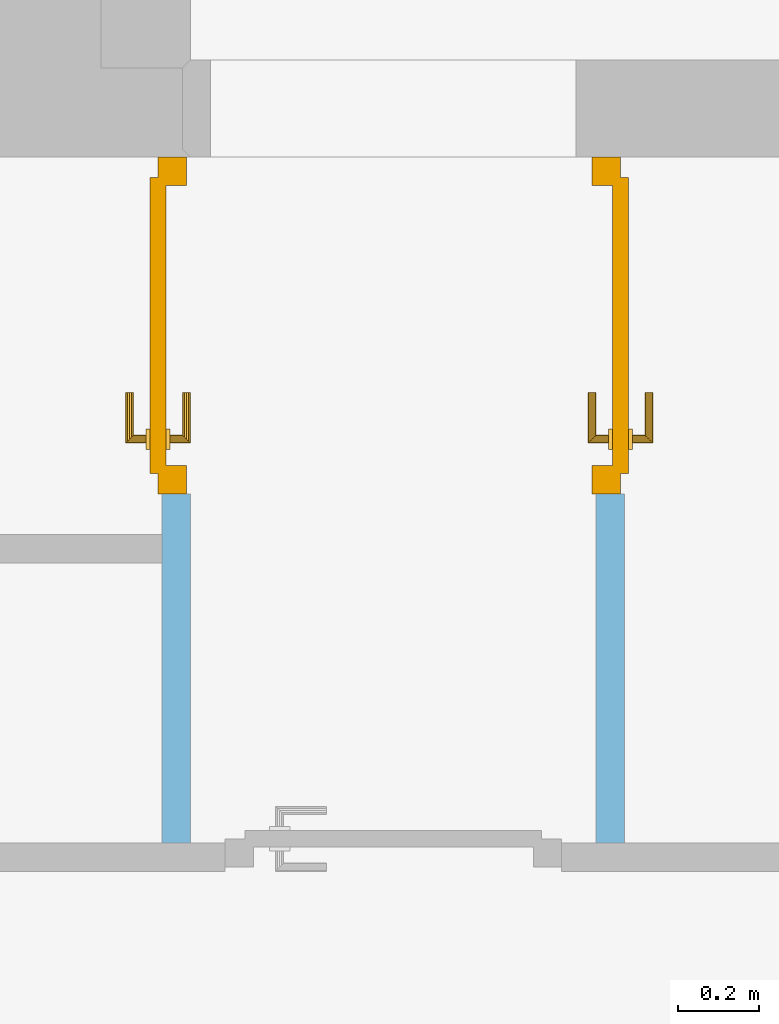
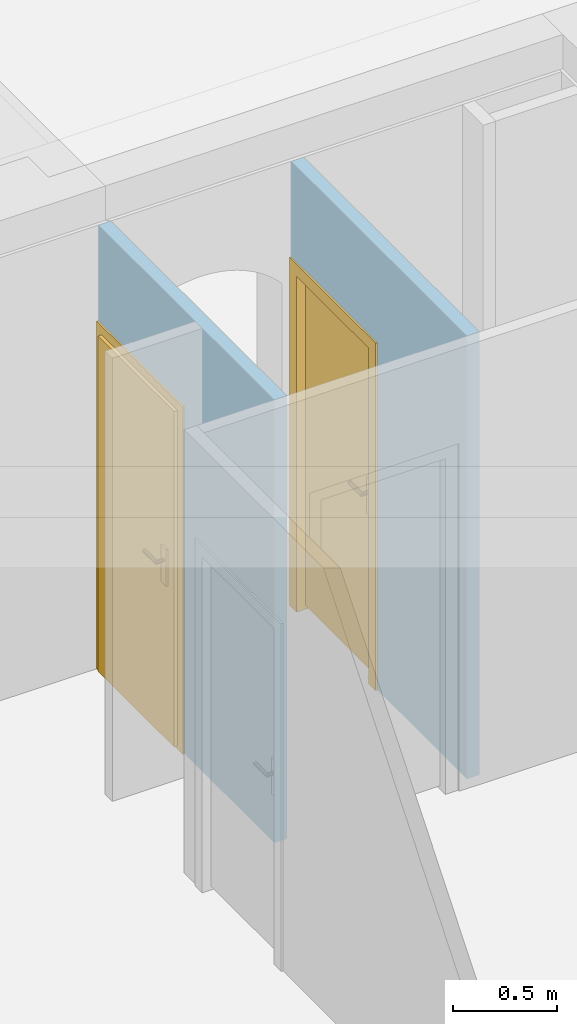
# One storey, part 9 of 16: 2 doors, 2 openings, plus 2 elements that do not belong to this part.
"""IFC4 building model written with IfcOpenShell, lengths in metres."""

from ifc_helpers import new_model, entity, si_unit, converted_unit, frame, frame_2d, origin, origin_with_axes, place, context, subcontext, project, spatial, polyline, rectangle, outline, extrude, faceted_brep, source, transform, mapped, material, layer, layer_set, layer_usage, type_object, element, fill, save


model = new_model("IFC4")

# Units and contexts
model_context = context("Model", 3, precision=1e-05, world=origin())
body_context = subcontext(model_context, "Body", "Model", "MODEL_VIEW")
ifc_project = project(units=[si_unit("LENGTHUNIT", "METRE"), si_unit("AREAUNIT", "SQUARE_METRE"), si_unit("VOLUMEUNIT", "CUBIC_METRE"), si_unit("MASSUNIT", "GRAM", prefix="KILO"), converted_unit("PLANEANGLEUNIT", "DEGREE", entity("IfcPlaneAngleMeasure", 0.0174532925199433), si_unit("PLANEANGLEUNIT", "RADIAN"), dimensions=[0, 0, 0, 0, 0, 0, 0])], contexts=[model_context])

# Building, storey
building_placement = place(None, origin())
building = spatial("IfcBuilding", under=ifc_project, at=building_placement, Name="Projet de Construction", CompositionType="ELEMENT")
storey_placement = place(building_placement, frame((0.0, 0.0, -0.05)))
storey = spatial("IfcBuildingStorey", under=building, at=storey_placement, Name="RDC", CompositionType="ELEMENT", Elevation=-0.05)

# Wall, opening, door
ifc_material_1 = material()
ifc_layer_1 = layer(ifc_material_1, 0.07)
ifc_layer_set_1 = layer_set([ifc_layer_1])
ifc_layer_usage_1 = layer_usage(ifc_layer_set_1, "AXIS2", "POSITIVE", 0.0)
wall_1_placement = place(storey_placement, frame((-5.8659375, 1.47979166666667, 0.05), z_axis=(0.0, 0.0, 1.0), x_axis=(0.0, -1.0, 0.0)))
wall_1 = element("IfcWall", 1, at=wall_1_placement, inside=storey, material=ifc_layer_usage_1, context=body_context, shape_type="SweptSolid", body=[
    extrude(rectangle(XDim=1.69, YDim=0.07, at=frame_2d((0.845, 0.035), x_axis=(1.0, 0.0))), origin_with_axes(), (0.0, 0.0, 1.0), 2.6),
])
opening_1_placement = place(wall_1_placement, frame((0.0, 0.0, 0.0), z_axis=(0.0, 1.0, 0.0), x_axis=(0.0, 0.0, 1.0)))
opening_1 = element("IfcOpeningStandardCase", 2, at=opening_1_placement, cuts=wall_1, Name="Baie de porte", PredefinedType="OPENING", context=body_context, shape_type="SweptSolid", body=[
    extrude(outline(polyline([(0.0, 0.83), (2.04, 0.83), (2.04, 0.0), (0.0, 0.0), (0.0, 0.83)])), origin_with_axes(), (0.0, 0.0, 1.0), 0.07),
])
ifc_material_2 = material()
door_type_1 = type_object("IfcDoorType", Name="1 vantail sol fini, en bois", OperationType="SINGLE_SWING_RIGHT", ParameterTakesPrecedence=False, PredefinedType="DOOR")
shared_shape_1 = source(origin_with_axes(), body_context, "Body", "Brep", [
    faceted_brep([(0.83, 0.07, 2.04), (0.76, 0.07, 2.04), (0.76, 0.07, -4.28626379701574e-18), (0.83, 0.07, -4.28626379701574e-18), (0.83, 0.0, 4.28626379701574e-18), (0.76, 0.0, 4.28626379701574e-18), (0.76, 0.0, 2.04), (0.83, 0.0, 2.04)], [[[0, 1, 2, 3]], [[4, 5, 6, 7]], [[3, 4, 7, 0]], [[2, 5, 4, 3]], [[1, 6, 5, 2]], [[0, 7, 6, 1]]], orient=[[False], [False], [False], [False], [False], [False]]),
    faceted_brep([(0.07, 0.07, 2.04), (0.0, 0.07, 2.04), (0.0, 0.07, -4.28626379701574e-18), (0.07, 0.07, -4.28626379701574e-18), (0.07, 0.0, 4.28626379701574e-18), (0.0, 0.0, 4.28626379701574e-18), (0.0, 0.0, 2.04), (0.07, 0.0, 2.04)], [[[0, 1, 2, 3]], [[4, 5, 6, 7]], [[3, 4, 7, 0]], [[2, 5, 4, 3]], [[1, 6, 5, 2]], [[0, 7, 6, 1]]], orient=[[False], [False], [False], [False], [False], [False]]),
    faceted_brep([(0.76, 0.07, 2.04), (0.07, 0.07, 2.04), (0.07, 0.07, 1.97), (0.76, 0.07, 1.97), (0.76, 0.0, 1.97), (0.07, 0.0, 1.97), (0.07, 0.0, 2.04), (0.76, 0.0, 2.04)], [[[0, 1, 2, 3]], [[4, 5, 6, 7]], [[3, 4, 7, 0]], [[2, 5, 4, 3]], [[1, 6, 5, 2]], [[0, 7, 6, 1]]], orient=[[False], [False], [False], [False], [False], [False]]),
    faceted_brep([(0.78, 0.09, 1.99), (0.05, 0.09, 1.99), (0.05, 0.09, 0.021), (0.78, 0.09, 0.021), (0.78, 0.05, 0.021), (0.05, 0.05, 0.021), (0.05, 0.05, 1.99), (0.78, 0.05, 1.99)], [[[0, 1, 2, 3]], [[4, 5, 6, 7]], [[3, 4, 7, 0]], [[2, 5, 4, 3]], [[1, 6, 5, 2]], [[0, 7, 6, 1]]], orient=[[False], [False], [False], [False], [False], [False]]),
    faceted_brep([(0.72, 0.05, 1.146), (0.67, 0.05, 1.146), (0.67, 0.05, 0.931), (0.72, 0.05, 0.931), (0.72, 0.04, 0.931), (0.67, 0.04, 0.931), (0.67, 0.04, 1.146), (0.72, 0.04, 1.146)], [[[0, 1, 2, 3]], [[4, 5, 6, 7]], [[3, 4, 7, 0]], [[2, 5, 4, 3]], [[1, 6, 5, 2]], [[0, 7, 6, 1]]], orient=[[False], [False], [False], [False], [False], [False]]),
    faceted_brep([(0.695, 0.04, 1.081), (0.69, 0.04, 1.07966025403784), (0.686339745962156, 0.04, 1.076), (0.685, 0.04, 1.071), (0.686339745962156, 0.04, 1.066), (0.69, 0.04, 1.06233974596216), (0.695, 0.04, 1.061), (0.7, 0.04, 1.06233974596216), (0.703660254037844, 0.04, 1.066), (0.705, 0.04, 1.071), (0.703660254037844, 0.04, 1.076), (0.7, 0.04, 1.07966025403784), (0.7, -0.005, 1.07966025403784), (0.695, 0.0, 1.081), (0.703660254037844, -0.00866025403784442, 1.076), (0.705, -0.01, 1.071), (0.703660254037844, -0.00866025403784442, 1.066), (0.7, -0.005, 1.06233974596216), (0.695, 0.0, 1.061), (0.69, 0.005, 1.06233974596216), (0.686339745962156, 0.00866025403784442, 1.066), (0.685, 0.01, 1.071), (0.686339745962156, 0.00866025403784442, 1.076), (0.69, 0.005, 1.07966025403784), (0.58, 0.0, 1.081), (0.58, -0.005, 1.07966025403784), (0.58, -0.00866025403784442, 1.076), (0.58, -0.01, 1.071), (0.58, -0.00866025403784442, 1.066), (0.58, -0.005, 1.06233974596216), (0.58, 0.0, 1.061), (0.58, 0.005, 1.06233974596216), (0.58, 0.00866025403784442, 1.066), (0.58, 0.01, 1.071), (0.58, 0.00866025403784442, 1.076), (0.58, 0.005, 1.07966025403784)], [[[0, 1, 2, 3, 4, 5, 6, 7, 8, 9, 10, 11]], [[0, 11, 12, 13]], [[11, 10, 14, 12]], [[10, 9, 15, 14]], [[9, 8, 16, 15]], [[8, 7, 17, 16]], [[7, 6, 18, 17]], [[6, 5, 19, 18]], [[5, 4, 20, 19]], [[4, 3, 21, 20]], [[3, 2, 22, 21]], [[2, 1, 23, 22]], [[1, 0, 13, 23]], [[24, 25, 26, 27, 28, 29, 30, 31, 32, 33, 34, 35]], [[13, 12, 25, 24]], [[12, 14, 26, 25]], [[14, 15, 27, 26]], [[15, 16, 28, 27]], [[16, 17, 29, 28]], [[17, 18, 30, 29]], [[18, 19, 31, 30]], [[19, 20, 32, 31]], [[20, 21, 33, 32]], [[21, 22, 34, 33]], [[22, 23, 35, 34]], [[23, 13, 24, 35]]], orient=[[False], [False], [False], [False], [False], [False], [False], [False], [False], [False], [False], [False], [False], [False], [False], [False], [False], [False], [False], [False], [False], [False], [False], [False], [False], [False]]),
    faceted_brep([(0.72, 0.09, 1.146), (0.72, 0.09, 0.931), (0.67, 0.09, 0.931), (0.67, 0.09, 1.146), (0.72, 0.1, 0.931), (0.72, 0.1, 1.146), (0.67, 0.1, 1.146), (0.67, 0.1, 0.931)], [[[0, 1, 2, 3]], [[4, 5, 6, 7]], [[1, 0, 5, 4]], [[2, 1, 4, 7]], [[3, 2, 7, 6]], [[0, 3, 6, 5]]], orient=[[False], [False], [False], [False], [False], [False]]),
    faceted_brep([(0.695, 0.1, 1.081), (0.7, 0.1, 1.07966025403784), (0.703660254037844, 0.1, 1.076), (0.705, 0.1, 1.071), (0.703660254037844, 0.1, 1.066), (0.7, 0.1, 1.06233974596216), (0.695, 0.1, 1.061), (0.69, 0.1, 1.06233974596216), (0.686339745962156, 0.1, 1.066), (0.685, 0.1, 1.071), (0.686339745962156, 0.1, 1.076), (0.69, 0.1, 1.07966025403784), (0.695, 0.14, 1.081), (0.7, 0.145, 1.07966025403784), (0.703660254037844, 0.148660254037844, 1.076), (0.705, 0.15, 1.071), (0.703660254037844, 0.148660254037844, 1.066), (0.7, 0.145, 1.06233974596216), (0.695, 0.14, 1.061), (0.69, 0.135, 1.06233974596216), (0.686339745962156, 0.131339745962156, 1.066), (0.685, 0.13, 1.071), (0.686339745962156, 0.131339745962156, 1.076), (0.69, 0.135, 1.07966025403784), (0.58, 0.14, 1.081), (0.58, 0.135, 1.07966025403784), (0.58, 0.131339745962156, 1.076), (0.58, 0.13, 1.071), (0.58, 0.131339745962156, 1.066), (0.58, 0.135, 1.06233974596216), (0.58, 0.14, 1.061), (0.58, 0.145, 1.06233974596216), (0.58, 0.148660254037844, 1.066), (0.58, 0.15, 1.071), (0.58, 0.148660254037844, 1.076), (0.58, 0.145, 1.07966025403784)], [[[0, 1, 2, 3, 4, 5, 6, 7, 8, 9, 10, 11]], [[0, 12, 13, 1]], [[1, 13, 14, 2]], [[2, 14, 15, 3]], [[3, 15, 16, 4]], [[4, 16, 17, 5]], [[5, 17, 18, 6]], [[6, 18, 19, 7]], [[7, 19, 20, 8]], [[8, 20, 21, 9]], [[9, 21, 22, 10]], [[10, 22, 23, 11]], [[11, 23, 12, 0]], [[24, 25, 26, 27, 28, 29, 30, 31, 32, 33, 34, 35]], [[12, 24, 35, 13]], [[13, 35, 34, 14]], [[14, 34, 33, 15]], [[15, 33, 32, 16]], [[16, 32, 31, 17]], [[17, 31, 30, 18]], [[18, 30, 29, 19]], [[19, 29, 28, 20]], [[20, 28, 27, 21]], [[21, 27, 26, 22]], [[22, 26, 25, 23]], [[23, 25, 24, 12]]], orient=[[False], [False], [False], [False], [False], [False], [False], [False], [False], [False], [False], [False], [False], [False], [False], [False], [False], [False], [False], [False], [False], [False], [False], [False], [False], [False]]),
])
door_1_placement = place(opening_1_placement, frame((0.0, 0.0, -0.01), z_axis=(1.0, 0.0, 0.0), x_axis=(0.0, 1.0, 0.0)))
door_1 = element("IfcDoor", 3, at=door_1_placement, inside=storey, type_object=door_type_1, material=ifc_material_2, Name="1 vantail sol fini, en bois", OverallHeight=2.04, OverallWidth=0.83, context=body_context, shape_type="MappedRepresentation", body=[
    mapped(shared_shape_1, transform((0.0, 0.0, 0.0), x_axis=(1.0, 0.0, 0.0), y_axis=(0.0, 1.0, 0.0), z_axis=(0.0, 0.0, 1.0), scale=1.0)),
])
fill(opening_1, door_1)

ifc_material_3 = material()
ifc_layer_2 = layer(ifc_material_3, 0.07)
ifc_layer_set_2 = layer_set([ifc_layer_2])
ifc_layer_usage_2 = layer_usage(ifc_layer_set_2, "AXIS2", "POSITIVE", 0.0)
wall_2_placement = place(storey_placement, frame((-6.8659375, -0.210208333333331, 0.05), z_axis=(0.0, 0.0, 1.0), x_axis=(-5.38162545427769e-16, 1.0, 0.0)))
wall_2 = element("IfcWall", 4, at=wall_2_placement, inside=storey, material=ifc_layer_usage_2, context=body_context, shape_type="SweptSolid", body=[
    extrude(rectangle(XDim=1.69, YDim=0.07, at=frame_2d((0.844999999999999, 0.035), x_axis=(1.0, 0.0))), origin_with_axes(), (0.0, 0.0, 1.0), 2.6),
])
opening_2_placement = place(wall_2_placement, frame((1.69, 0.07, 0.0), z_axis=(0.0, -1.0, 0.0), x_axis=(0.0, 0.0, 1.0)))
opening_2 = element("IfcOpeningStandardCase", 5, at=opening_2_placement, cuts=wall_2, Name="Baie de porte", PredefinedType="OPENING", context=body_context, shape_type="SweptSolid", body=[
    extrude(outline(polyline([(0.0, 0.83), (2.04, 0.83), (2.04, 0.0), (0.0, 0.0), (0.0, 0.83)])), origin_with_axes(), (0.0, 0.0, 1.0), 0.07),
])
ifc_material_4 = material()
door_type_2 = type_object("IfcDoorType", Name="1 vantail sol fini, en bois", OperationType="SINGLE_SWING_RIGHT", ParameterTakesPrecedence=False, PredefinedType="DOOR")
shared_shape_2 = source(origin_with_axes(), body_context, "Body", "Brep", [
    faceted_brep([(0.0, 0.0700000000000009, 2.04), (0.0, 0.0700000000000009, -4.28626379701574e-18), (0.07, 0.0700000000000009, -4.28626379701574e-18), (0.07, 0.0700000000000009, 2.04), (0.0, 9.09494701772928e-16, 4.28626379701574e-18), (0.0, 9.09494701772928e-16, 2.04), (0.07, 9.09494701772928e-16, 2.04), (0.07, 9.09494701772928e-16, 4.28626379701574e-18)], [[[0, 1, 2, 3]], [[4, 5, 6, 7]], [[1, 0, 5, 4]], [[2, 1, 4, 7]], [[3, 2, 7, 6]], [[0, 3, 6, 5]]], orient=[[False], [False], [False], [False], [False], [False]]),
    faceted_brep([(0.76, 0.0700000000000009, 2.04), (0.76, 0.0700000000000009, -4.28626379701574e-18), (0.83, 0.0700000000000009, -4.28626379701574e-18), (0.83, 0.0700000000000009, 2.04), (0.76, 9.09494701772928e-16, 4.28626379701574e-18), (0.76, 9.09494701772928e-16, 2.04), (0.83, 9.09494701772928e-16, 2.04), (0.83, 9.09494701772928e-16, 4.28626379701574e-18)], [[[0, 1, 2, 3]], [[4, 5, 6, 7]], [[1, 0, 5, 4]], [[2, 1, 4, 7]], [[3, 2, 7, 6]], [[0, 3, 6, 5]]], orient=[[False], [False], [False], [False], [False], [False]]),
    faceted_brep([(0.07, 0.0700000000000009, 2.04), (0.07, 0.0700000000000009, 1.97), (0.76, 0.0700000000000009, 1.97), (0.76, 0.0700000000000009, 2.04), (0.07, 9.09494701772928e-16, 1.97), (0.07, 9.09494701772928e-16, 2.04), (0.76, 9.09494701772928e-16, 2.04), (0.76, 9.09494701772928e-16, 1.97)], [[[0, 1, 2, 3]], [[4, 5, 6, 7]], [[1, 0, 5, 4]], [[2, 1, 4, 7]], [[3, 2, 7, 6]], [[0, 3, 6, 5]]], orient=[[False], [False], [False], [False], [False], [False]]),
    faceted_brep([(0.05, 0.0900000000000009, 1.99), (0.05, 0.0900000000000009, 0.021), (0.78, 0.0900000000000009, 0.021), (0.78, 0.0900000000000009, 1.99), (0.05, 0.0500000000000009, 0.021), (0.05, 0.0500000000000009, 1.99), (0.78, 0.0500000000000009, 1.99), (0.78, 0.0500000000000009, 0.021)], [[[0, 1, 2, 3]], [[4, 5, 6, 7]], [[1, 0, 5, 4]], [[2, 1, 4, 7]], [[3, 2, 7, 6]], [[0, 3, 6, 5]]], orient=[[False], [False], [False], [False], [False], [False]]),
    faceted_brep([(0.11, 0.0500000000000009, 1.146), (0.11, 0.0500000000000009, 0.931), (0.16, 0.0500000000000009, 0.931), (0.16, 0.0500000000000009, 1.146), (0.11, 0.0400000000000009, 0.931), (0.11, 0.0400000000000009, 1.146), (0.16, 0.0400000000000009, 1.146), (0.16, 0.0400000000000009, 0.931)], [[[0, 1, 2, 3]], [[4, 5, 6, 7]], [[1, 0, 5, 4]], [[2, 1, 4, 7]], [[3, 2, 7, 6]], [[0, 3, 6, 5]]], orient=[[False], [False], [False], [False], [False], [False]]),
    faceted_brep([(0.135, 0.0400000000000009, 1.081), (0.13, 0.0400000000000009, 1.07966025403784), (0.126339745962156, 0.0400000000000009, 1.076), (0.125, 0.0400000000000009, 1.071), (0.126339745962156, 0.0400000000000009, 1.066), (0.13, 0.0400000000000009, 1.06233974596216), (0.135, 0.0400000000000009, 1.061), (0.14, 0.0400000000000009, 1.06233974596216), (0.143660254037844, 0.0400000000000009, 1.066), (0.145, 0.0400000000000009, 1.071), (0.143660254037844, 0.0400000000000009, 1.076), (0.14, 0.0400000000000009, 1.07966025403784), (0.135, 9.09494701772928e-16, 1.081), (0.13, -0.00499999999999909, 1.07966025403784), (0.126339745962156, -0.00866025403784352, 1.076), (0.125, -0.00999999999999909, 1.071), (0.126339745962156, -0.00866025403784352, 1.066), (0.13, -0.00499999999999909, 1.06233974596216), (0.135, 9.09494701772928e-16, 1.061), (0.14, 0.00500000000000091, 1.06233974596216), (0.143660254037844, 0.00866025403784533, 1.066), (0.145, 0.0100000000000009, 1.071), (0.143660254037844, 0.00866025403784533, 1.076), (0.14, 0.00500000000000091, 1.07966025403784), (0.25, 9.09494701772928e-16, 1.081), (0.25, 0.00500000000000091, 1.07966025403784), (0.25, 0.00866025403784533, 1.076), (0.25, 0.0100000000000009, 1.071), (0.25, 0.00866025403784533, 1.066), (0.25, 0.00500000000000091, 1.06233974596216), (0.25, 9.09494701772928e-16, 1.061), (0.25, -0.00499999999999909, 1.06233974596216), (0.25, -0.00866025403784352, 1.066), (0.25, -0.00999999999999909, 1.071), (0.25, -0.00866025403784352, 1.076), (0.25, -0.00499999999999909, 1.07966025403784)], [[[0, 1, 2, 3, 4, 5, 6, 7, 8, 9, 10, 11]], [[0, 12, 13, 1]], [[1, 13, 14, 2]], [[2, 14, 15, 3]], [[3, 15, 16, 4]], [[4, 16, 17, 5]], [[5, 17, 18, 6]], [[6, 18, 19, 7]], [[7, 19, 20, 8]], [[8, 20, 21, 9]], [[9, 21, 22, 10]], [[10, 22, 23, 11]], [[11, 23, 12, 0]], [[24, 25, 26, 27, 28, 29, 30, 31, 32, 33, 34, 35]], [[12, 24, 35, 13]], [[13, 35, 34, 14]], [[14, 34, 33, 15]], [[15, 33, 32, 16]], [[16, 32, 31, 17]], [[17, 31, 30, 18]], [[18, 30, 29, 19]], [[19, 29, 28, 20]], [[20, 28, 27, 21]], [[21, 27, 26, 22]], [[22, 26, 25, 23]], [[23, 25, 24, 12]]], orient=[[False], [False], [False], [False], [False], [False], [False], [False], [False], [False], [False], [False], [False], [False], [False], [False], [False], [False], [False], [False], [False], [False], [False], [False], [False], [False]]),
    faceted_brep([(0.11, 0.0900000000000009, 1.146), (0.16, 0.0900000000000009, 1.146), (0.16, 0.0900000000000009, 0.931), (0.11, 0.0900000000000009, 0.931), (0.11, 0.100000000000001, 0.931), (0.16, 0.100000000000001, 0.931), (0.16, 0.100000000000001, 1.146), (0.11, 0.100000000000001, 1.146)], [[[0, 1, 2, 3]], [[4, 5, 6, 7]], [[3, 4, 7, 0]], [[2, 5, 4, 3]], [[1, 6, 5, 2]], [[0, 7, 6, 1]]], orient=[[False], [False], [False], [False], [False], [False]]),
    faceted_brep([(0.135, 0.100000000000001, 1.081), (0.14, 0.100000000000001, 1.07966025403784), (0.143660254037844, 0.100000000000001, 1.076), (0.145, 0.100000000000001, 1.071), (0.143660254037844, 0.100000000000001, 1.066), (0.14, 0.100000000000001, 1.06233974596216), (0.135, 0.100000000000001, 1.061), (0.13, 0.100000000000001, 1.06233974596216), (0.126339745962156, 0.100000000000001, 1.066), (0.125, 0.100000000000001, 1.071), (0.126339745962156, 0.100000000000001, 1.076), (0.13, 0.100000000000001, 1.07966025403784), (0.13, 0.145000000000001, 1.07966025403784), (0.135, 0.140000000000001, 1.081), (0.126339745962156, 0.148660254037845, 1.076), (0.125, 0.150000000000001, 1.071), (0.126339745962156, 0.148660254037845, 1.066), (0.13, 0.145000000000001, 1.06233974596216), (0.135, 0.140000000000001, 1.061), (0.14, 0.135000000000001, 1.06233974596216), (0.143660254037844, 0.131339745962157, 1.066), (0.145, 0.130000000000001, 1.071), (0.143660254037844, 0.131339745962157, 1.076), (0.14, 0.135000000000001, 1.07966025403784), (0.25, 0.140000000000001, 1.081), (0.25, 0.145000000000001, 1.07966025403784), (0.25, 0.148660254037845, 1.076), (0.25, 0.150000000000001, 1.071), (0.25, 0.148660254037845, 1.066), (0.25, 0.145000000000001, 1.06233974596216), (0.25, 0.140000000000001, 1.061), (0.25, 0.135000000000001, 1.06233974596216), (0.25, 0.131339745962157, 1.066), (0.25, 0.130000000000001, 1.071), (0.25, 0.131339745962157, 1.076), (0.25, 0.135000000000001, 1.07966025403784)], [[[0, 1, 2, 3, 4, 5, 6, 7, 8, 9, 10, 11]], [[0, 11, 12, 13]], [[11, 10, 14, 12]], [[10, 9, 15, 14]], [[9, 8, 16, 15]], [[8, 7, 17, 16]], [[7, 6, 18, 17]], [[6, 5, 19, 18]], [[5, 4, 20, 19]], [[4, 3, 21, 20]], [[3, 2, 22, 21]], [[2, 1, 23, 22]], [[1, 0, 13, 23]], [[24, 25, 26, 27, 28, 29, 30, 31, 32, 33, 34, 35]], [[13, 12, 25, 24]], [[12, 14, 26, 25]], [[14, 15, 27, 26]], [[15, 16, 28, 27]], [[16, 17, 29, 28]], [[17, 18, 30, 29]], [[18, 19, 31, 30]], [[19, 20, 32, 31]], [[20, 21, 33, 32]], [[21, 22, 34, 33]], [[22, 23, 35, 34]], [[23, 13, 24, 35]]], orient=[[False], [False], [False], [False], [False], [False], [False], [False], [False], [False], [False], [False], [False], [False], [False], [False], [False], [False], [False], [False], [False], [False], [False], [False], [False], [False]]),
])
door_2_placement = place(opening_2_placement, frame((0.0, 0.83, 0.0599999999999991), z_axis=(1.0, 0.0, 0.0), x_axis=(0.0, -1.0, 5.38162545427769e-16)))
door_2 = element("IfcDoor", 6, at=door_2_placement, inside=storey, type_object=door_type_2, material=ifc_material_4, Name="1 vantail sol fini, en bois", OverallHeight=2.04, OverallWidth=0.83, context=body_context, shape_type="MappedRepresentation", body=[
    mapped(shared_shape_2, transform((0.0, 0.0, 0.0), x_axis=(1.0, 0.0, 0.0), y_axis=(0.0, 1.0, 0.0), z_axis=(0.0, 0.0, 1.0), scale=1.0)),
])
fill(opening_2, door_2)

save(model, "model.ifc")
